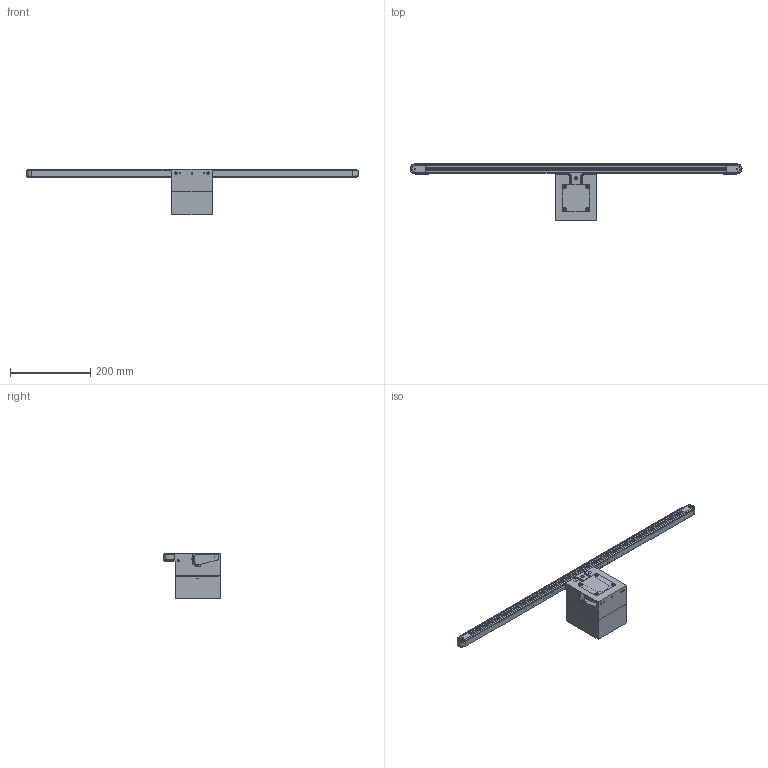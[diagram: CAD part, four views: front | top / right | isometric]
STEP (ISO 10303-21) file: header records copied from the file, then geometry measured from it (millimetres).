
FILE_DESCRIPTION(/* description */ (''),/* implementation_level */ '2;1');
FILE_NAME(/* name */ 'G:\DATEN\CAD\Förderband\Marketing\3D-Modelle (Standard)\FR-20-20-M\FR-20-20-M-800-K.stp',/* time_stamp */ '2019-03-27T16:31:57+01:00',/* author */ ('pia.schaefer'),/* organization */ (''),/* preprocessor_version */ 'ST-DEVELOPER v17',/* originating_system */ 'Autodesk Inventor 2019',/* authorisation */ '');
FILE_SCHEMA (('AUTOMOTIVE_DESIGN { 1 0 10303 214 3 1 1 }'));
Length unit declared in the file: millimetre
Products named in the file (1): FR-20-20-M-800-K
Bounding box: 825.6 x 140.3 x 114 mm (x, y, z)
Volume: 1449485.5 mm3; surface area: 366393.3 mm2
Topology: 33 solids, 36 shells, 970 faces, 2643 edges, 1785 vertices
Faces by surface type: plane 521, cylinder 234, bspline 122, cone 77, torus 16
Full cylindrical faces by diameter (mm): 1.6 x4, 2.459 x2, 3 x2, 3.5 x4, 4 x6, 4.134 x6, 4.3 x1, 4.5 x4, 4.917 x3, 5 x10, 5.2 x2, 5.5 x2, 6.5 x1, 6.647 x1, 6.773 x1, 7 x2, 8 x14, 8.773 x1, 9.43 x2, 9.6 x2, 10 x5, 11 x1, 22 x2, 24 x2
Entity records: 33255 total; most frequent: CARTESIAN_POINT 8162, ORIENTED_EDGE 5242, DIRECTION 4631, EDGE_CURVE 2621, VERTEX_POINT 1785, AXIS2_PLACEMENT_3D 1551, LINE 1529, VECTOR 1529
